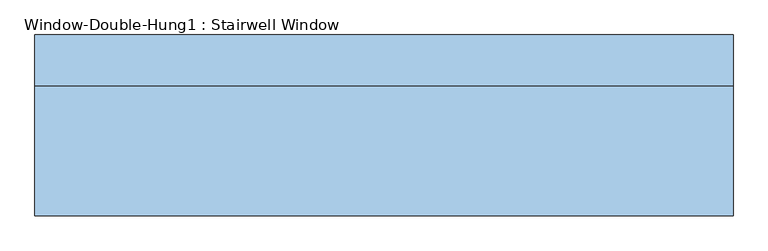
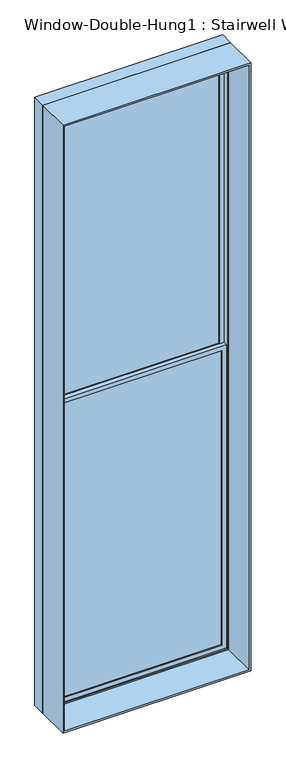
"""IFC4 building model written with IfcOpenShell, lengths in millimetres: window geometry, Window-Double-Hung1 : Stairwell Window."""

from ifc_helpers import new_model, si_unit, frame, origin, place, context, project, spatial, polyline, outline, extrude, source, transform, mapped, element, save


def window_double_hung1_stairwell_window_f29d4600(model_context):
    return source(origin(), model_context, "Body", "SweptSolid", [
        extrude(outline(polyline([(838.2, 157.1625), (838.2, 150.8125), (-838.2, 150.8125), (-838.2, 157.1625), (838.2, 157.1625)])), frame((0.0, 0.0, 990.6), z_axis=(0.0, 0.0, 1.0), x_axis=(1.0, 0.0, 0.0)), (0.0, 0.0, 1.0), 3025.775),
        extrude(outline(polyline([(-838.2, 144.4625), (838.2, 144.4625), (838.2, 138.1125), (-838.2, 138.1125), (-838.2, 144.4625)])), frame((0.0, 0.0, 990.6), z_axis=(0.0, 0.0, 1.0), x_axis=(1.0, 0.0, 0.0)), (0.0, 0.0, 1.0), 3025.775),
        extrude(outline(polyline([(838.2, 201.6125), (838.2, 195.2625), (-838.2, 195.2625), (-838.2, 201.6125), (838.2, 201.6125)])), frame((0.0, 0.0, 4060.825), z_axis=(0.0, 0.0, 1.0), x_axis=(1.0, 0.0, 0.0)), (0.0, 0.0, 1.0), 3025.775),
        extrude(outline(polyline([(-838.2, 188.9125), (838.2, 188.9125), (838.2, 182.5625), (-838.2, 182.5625), (-838.2, 188.9125)])), frame((0.0, 0.0, 4060.825), z_axis=(0.0, 0.0, 1.0), x_axis=(1.0, 0.0, 0.0)), (0.0, 0.0, 1.0), 3025.775),
        extrude(outline(polyline([(4060.825, -882.65), (946.15, -882.65), (946.15, 882.65), (4060.825, 882.65), (4060.825, -882.65)]), holes=[polyline([(4016.375, 838.2), (990.6, 838.2), (990.6, -838.2), (4016.375, -838.2), (4016.375, 838.2)])]), frame((0.0, 125.4125, 0.0), z_axis=(0.0, 1.0, 0.0), x_axis=(0.0, 0.0, 1.0)), (0.0, 0.0, 1.0), 44.45),
        extrude(outline(polyline([(7131.05, -882.65), (4016.375, -882.65), (4016.375, 882.65), (7131.05, 882.65), (7131.05, -882.65)]), holes=[polyline([(7086.6, 838.2), (4060.825, 838.2), (4060.825, -838.2), (7086.6, -838.2), (7086.6, 838.2)])]), frame((0.0, 169.8625, 0.0), z_axis=(0.0, 1.0, 0.0), x_axis=(0.0, 0.0, 1.0)), (0.0, 0.0, 1.0), 44.45),
        extrude(outline(polyline([(7162.8, -914.4), (914.4, -914.4), (914.4, 914.4), (7162.8, 914.4), (7162.8, -914.4)]), holes=[polyline([(7131.05, 882.65), (946.15, 882.65), (946.15, -882.65), (7131.05, -882.65), (7131.05, 882.65)])]), frame((0.0, 112.7125, 0.0), z_axis=(0.0, 1.0, 0.0), x_axis=(0.0, 0.0, 1.0)), (0.0, 0.0, 1.0), 133.35),
        extrude(outline(polyline([(7162.8, 914.4), (7162.8, -914.4), (914.4, -914.4), (914.4, 914.4), (7162.8, 914.4)]), holes=[polyline([(7143.75, 895.35), (933.45, 895.35), (933.45, -895.35), (7143.75, -895.35), (7143.75, 895.35)])]), frame((0.0, -227.0125, 0.0), z_axis=(0.0, 1.0, 0.0), x_axis=(0.0, 0.0, 1.0)), (0.0, 0.0, 1.0), 339.725),
    ])


if __name__ == "__main__":
    model = new_model("IFC4")
    model_context = context("Model", 3, world=origin())
    ifc_project = project(units=[si_unit("LENGTHUNIT", "METRE", prefix="MILLI")], contexts=[model_context])
    site = spatial("IfcSite", under=ifc_project)
    building = spatial("IfcBuilding", under=site)
    placement = place(None, origin())
    window_double_hung1_stairwell_window_shape = window_double_hung1_stairwell_window_f29d4600(model_context)
    element("IfcWindow", 1, ObjectType="Window-Double-Hung1 : Stairwell Window", at=placement, inside=building, context=model_context, shape_type="MappedRepresentation", body=[
        mapped(window_double_hung1_stairwell_window_shape, transform((0.0, 0.0, 0.0), x_axis=(1.0, 0.0, 0.0), y_axis=(0.0, 1.0, 0.0), z_axis=(0.0, 0.0, 1.0))),
    ])
    save(model, "model.ifc")
